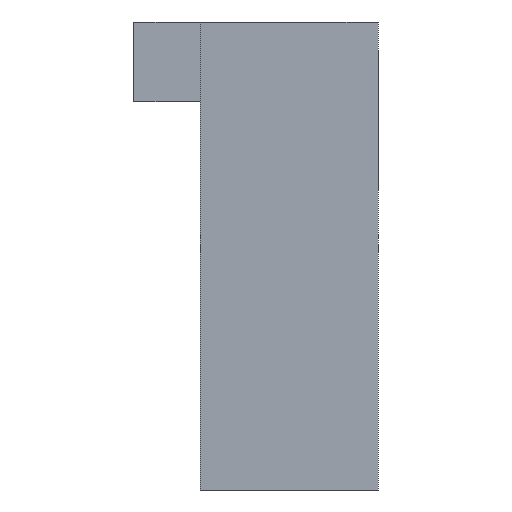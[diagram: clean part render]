
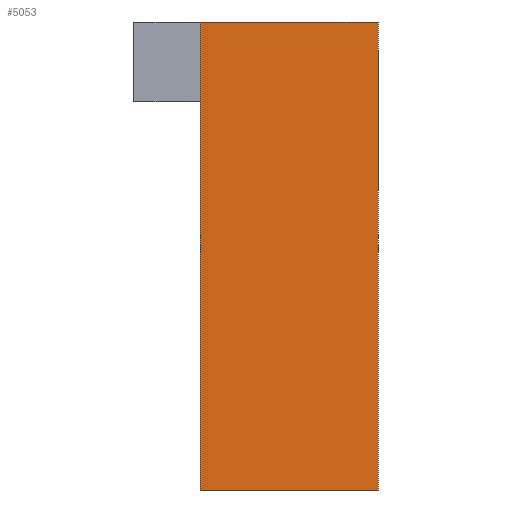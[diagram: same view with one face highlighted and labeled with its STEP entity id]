
A CAD part, left-side view. The second image highlights one B-rep face of the part: STEP entity #5053.
In plain terms, the highlighted planar face has unit normal (-1, 0, 0).
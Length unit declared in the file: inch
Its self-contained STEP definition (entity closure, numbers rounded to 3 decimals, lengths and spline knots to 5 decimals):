
#237=DIRECTION('',(0.,1.,0.));
#238=VECTOR('',#237,0.19);
#239=CARTESIAN_POINT('',(-0.661,0.,0.));
#240=LINE('',#239,#238);
#381=DIRECTION('',(0.,1.,0.));
#382=VECTOR('',#381,0.19);
#383=CARTESIAN_POINT('',(-0.661,0.,-0.5));
#384=LINE('',#383,#382);
#1025=DIRECTION('',(0.,0.,-1.));
#1026=VECTOR('',#1025,0.5);
#1027=CARTESIAN_POINT('',(-0.661,0.19,0.));
#1028=LINE('',#1027,#1026);
#1117=DIRECTION('',(0.,0.,-1.));
#1118=VECTOR('',#1117,0.5);
#1119=CARTESIAN_POINT('',(-0.661,0.,0.));
#1120=LINE('',#1119,#1118);
#3098=CARTESIAN_POINT('',(-0.661,0.,0.));
#3100=VERTEX_POINT('',#3098);
#3101=CARTESIAN_POINT('',(-0.661,0.19,0.));
#3102=VERTEX_POINT('',#3101);
#3106=CARTESIAN_POINT('',(-0.661,0.,-0.5));
#3108=VERTEX_POINT('',#3106);
#3109=CARTESIAN_POINT('',(-0.661,0.19,-0.5));
#3110=VERTEX_POINT('',#3109);
#5042=CARTESIAN_POINT('',(-0.661,0.,0.));
#5043=DIRECTION('',(-1.,0.,0.));
#5044=DIRECTION('',(0.,1.,0.));
#5045=AXIS2_PLACEMENT_3D('',#5042,#5043,#5044);
#5046=PLANE('',#5045);
#5047=ORIENTED_EDGE('',*,*,#4112,.F.);
#5048=ORIENTED_EDGE('',*,*,#4703,.T.);
#5049=ORIENTED_EDGE('',*,*,#4460,.T.);
#5050=ORIENTED_EDGE('',*,*,#4868,.F.);
#5051=EDGE_LOOP('',(#5047,#5048,#5049,#5050));
#5052=FACE_OUTER_BOUND('',#5051,.F.);
#5053=ADVANCED_FACE('',(#5052),#5046,.T.);
#4112=EDGE_CURVE('',#3100,#3102,#240,.T.);
#4460=EDGE_CURVE('',#3108,#3110,#384,.T.);
#4703=EDGE_CURVE('',#3100,#3108,#1120,.T.);
#4868=EDGE_CURVE('',#3102,#3110,#1028,.T.);
